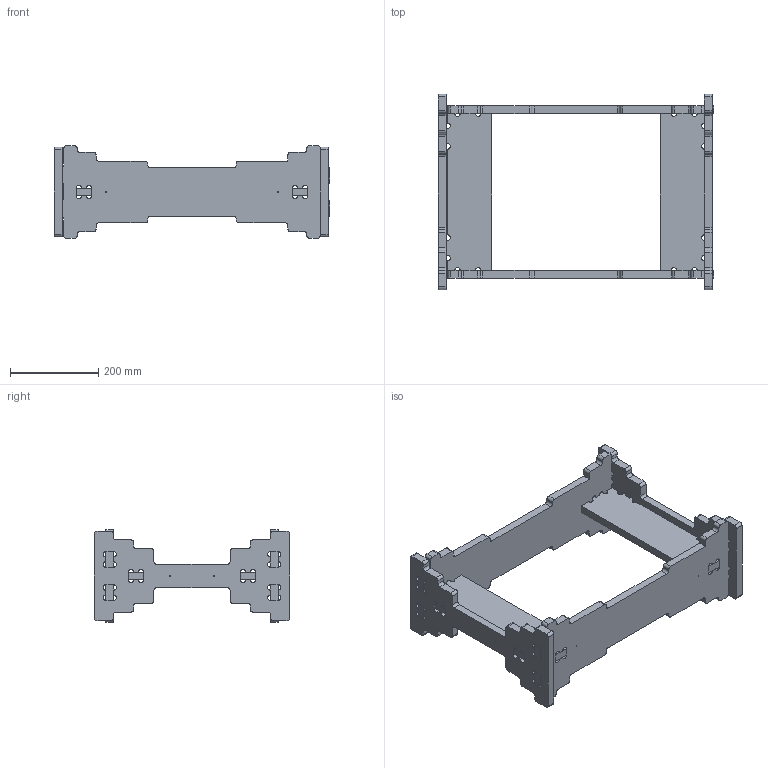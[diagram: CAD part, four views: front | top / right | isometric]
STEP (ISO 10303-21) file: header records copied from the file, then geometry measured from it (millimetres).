
FILE_DESCRIPTION(/* description */ (''),/* implementation_level */ '2;1');
FILE_NAME(/* name */ 'Stacker assembly',/* time_stamp */ '2022-12-13T12:30:15+01:00',/* author */ (''),/* organization */ (''),/* preprocessor_version */ 'ST-DEVELOPER v16.5',/* originating_system */ 'Rhino 7.15',/* authorisation */ '');
FILE_SCHEMA (('AUTOMOTIVE_DESIGN_CC2'));
Length unit declared in the file: millimetre
Products named in the file (5): Document; assembly; reinforcement; long side; short side
Assembly tree (7 placements, depth 3):
  Document
    assembly
      reinforcement  x2
      long side  x2
      short side  x2
Bounding box: 624 x 442 x 210 mm (x, y, z)
Volume: 6087088.2 mm3; surface area: 877370.6 mm2
Topology: 6 solids, 6 shells, 500 faces, 1464 edges, 976 vertices
Faces by surface type: plane 260, cylinder 240
Entity records: 7516 total; most frequent: CARTESIAN_POINT 2609, ORIENTED_EDGE 1464, EDGE_CURVE 732, B_SPLINE_CURVE_WITH_KNOTS 492, VERTEX_POINT 488, DIRECTION 280, EDGE_LOOP 274, AXIS2_PLACEMENT_3D 265
